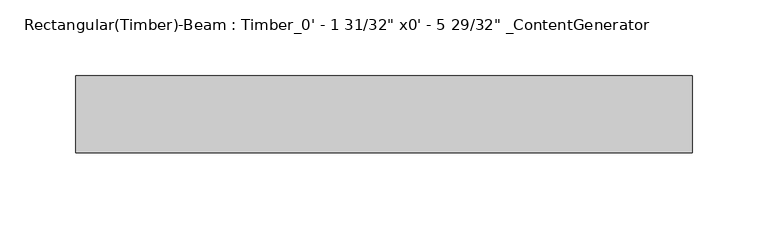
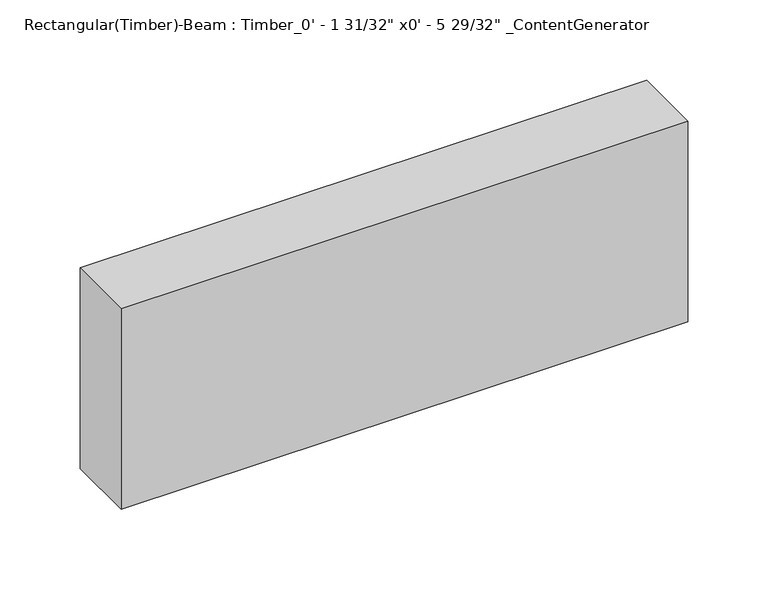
"""IFC4 building model written with IfcOpenShell, lengths in millimetres: beam geometry."""

from ifc_helpers import new_model, si_unit, frame, origin, place, context, project, spatial, polyline, outline, extrude, source, transform, mapped, element, save


def beam_987380b4(model_context):
    return source(origin(), model_context, "Body", "SweptSolid", [
        extrude(outline(polyline([(203.2099994, 25.4), (203.2099994, -25.4), (-203.21, -25.4), (-203.21, 25.4), (203.2099994, 25.4)])), frame((0.0, 0.0, -76.2), z_axis=(0.0, 0.0, 1.0), x_axis=(1.0, 0.0, 0.0)), (0.0, 0.0, 1.0), 152.4),
    ])


if __name__ == "__main__":
    model = new_model("IFC4")
    model_context = context("Model", 3, world=origin())
    ifc_project = project(units=[si_unit("LENGTHUNIT", "METRE", prefix="MILLI")], contexts=[model_context])
    site = spatial("IfcSite", under=ifc_project)
    building = spatial("IfcBuilding", under=site)
    placement = place(None, origin())
    beam_shape = beam_987380b4(model_context)
    element("IfcBeam", 1, ObjectType="Rectangular(Timber)-Beam : Timber_0' - 1 31/32\" x0' - 5 29/32\" _ContentGenerator", at=placement, inside=building, context=model_context, shape_type="MappedRepresentation", body=[
        mapped(beam_shape, transform((0.0, 0.0, 0.0), x_axis=(1.0, 0.0, 0.0), y_axis=(0.0, 1.0, 0.0), z_axis=(0.0, 0.0, 1.0))),
    ])
    save(model, "model.ifc")
